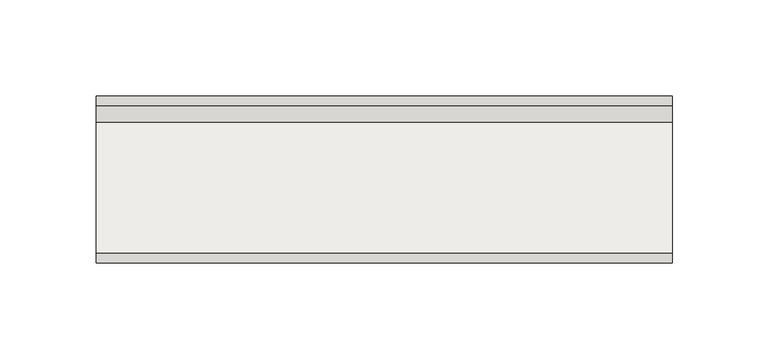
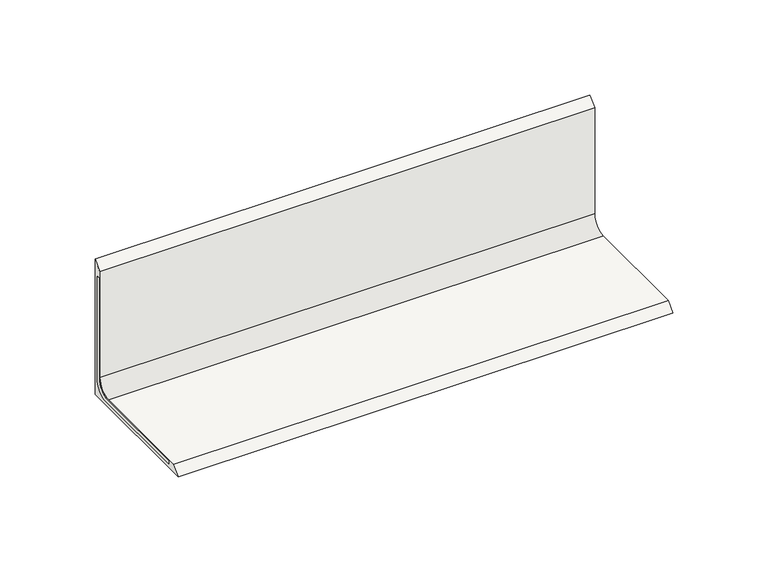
"""IFC4 building model written with IfcOpenShell, lengths in millimetres: covering geometry, Sikadur-Combiflex® SG System (Junta de construcción y grietas) (Longitudinal) : CINTA Sikadur-Combiflex® SG-10 P, ANCHO 15 cm."""

from ifc_helpers import new_model, si_unit, point, frame, frame_2d, origin, place, context, project, spatial, polyline, circle_curve, trimmed, segment, composite_curve, outline, extrude, source, transform, mapped, element, save


def covering_1b49ee62(model_context):
    return source(origin(), model_context, "Body", "SweptSolid", [
        extrude(outline(composite_curve([segment(polyline([(-4.0, 77.0), (-2.0, 77.0), (-2.0, 12.0)]), True, "CONTINUOUS"), segment(trimmed(circle_curve(frame_2d((-12.0, 12.0)), 10.0), [point((-2.0, 12.0))], [point((-12.0, 2.0))], False, "CARTESIAN"), True, "CONTINUOUS"), segment(polyline([(-12.0, 2.0), (-77.0, 2.0), (-77.0, 4.0), (-13.0, 4.0)]), True, "CONTINUOUS"), segment(trimmed(circle_curve(frame_2d((-13.0, 13.0)), 9.0), [point((-13.0, 4.0))], [point((-4.0, 13.0))], True, "CARTESIAN"), True, "CONTINUOUS"), segment(polyline([(-4.0, 13.0), (-4.0, 77.0)]), True, "CONTINUOUS")], self_intersect=False)), frame((0.0, 0.0, 0.0), z_axis=(1.0, 0.0, 0.0), x_axis=(0.0, 1.0, 0.0)), (0.0, 0.0, 1.0), 300.0),
        extrude(outline(composite_curve([segment(polyline([(0.0, 0.0), (-87.0, 0.0), (-82.0, 5.0), (-14.0, 5.0)]), True, "CONTINUOUS"), segment(trimmed(circle_curve(frame_2d((-14.0, 14.0)), 9.0), [point((-14.0, 5.0))], [point((-5.0, 14.0))], True, "CARTESIAN"), True, "CONTINUOUS"), segment(polyline([(-5.0, 14.0), (-5.0, 82.0), (0.0, 87.0), (0.0, 0.0)]), True, "CONTINUOUS")], self_intersect=False), holes=[composite_curve([segment(polyline([(-4.0, 77.0), (-4.0, 13.0)]), True, "CONTINUOUS"), segment(trimmed(circle_curve(frame_2d((-13.0, 13.0)), 9.0), [point((-4.0, 13.0))], [point((-13.0, 4.0))], False, "CARTESIAN"), True, "CONTINUOUS"), segment(polyline([(-13.0, 4.0), (-77.0, 4.0), (-77.0, 2.0), (-12.0, 2.0)]), True, "CONTINUOUS"), segment(trimmed(circle_curve(frame_2d((-12.0, 12.0)), 10.0), [point((-12.0, 2.0))], [point((-2.0, 12.0))], True, "CARTESIAN"), True, "CONTINUOUS"), segment(polyline([(-2.0, 12.0), (-2.0, 77.0), (-4.0, 77.0)]), True, "CONTINUOUS")], self_intersect=False)]), frame((0.0, 0.0, 0.0), z_axis=(1.0, 0.0, 0.0), x_axis=(0.0, 1.0, 0.0)), (0.0, 0.0, 1.0), 300.0),
    ])


if __name__ == "__main__":
    model = new_model("IFC4")
    model_context = context("Model", 3, world=origin())
    ifc_project = project(units=[si_unit("LENGTHUNIT", "METRE", prefix="MILLI")], contexts=[model_context])
    site = spatial("IfcSite", under=ifc_project)
    building = spatial("IfcBuilding", under=site)
    placement = place(None, origin())
    covering_shape = covering_1b49ee62(model_context)
    element("IfcCovering", 1, ObjectType="Sikadur-Combiflex® SG System (Junta de construcción y grietas) (Longitudinal) : CINTA Sikadur-Combiflex® SG-10 P, ANCHO 15 cm", at=placement, inside=building, context=model_context, shape_type="MappedRepresentation", body=[
        mapped(covering_shape, transform((0.0, 0.0, 0.0), x_axis=(1.0, 0.0, 0.0), y_axis=(0.0, 1.0, 0.0), z_axis=(0.0, 0.0, 1.0))),
    ])
    save(model, "model.ifc")
